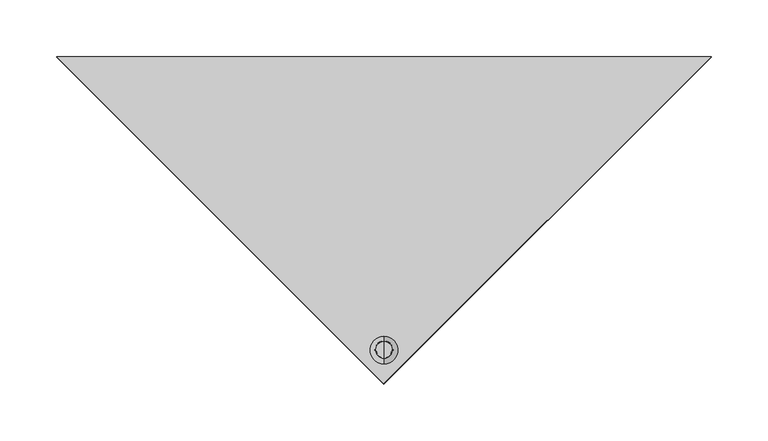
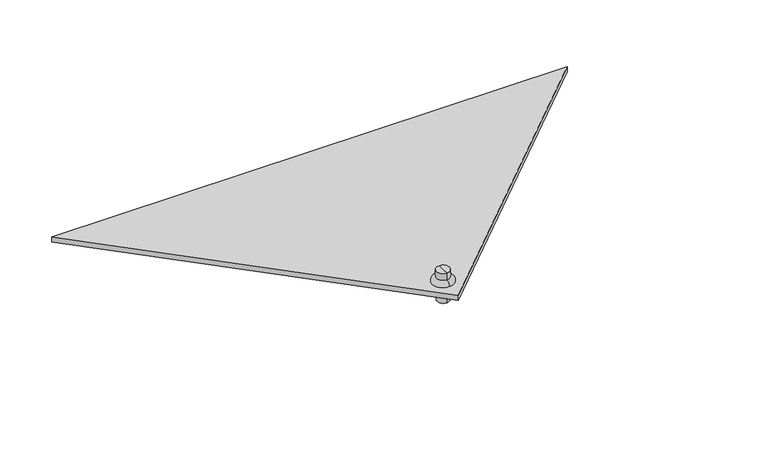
"""IFC4 building model written with IfcOpenShell, lengths in millimetres: proxy geometry, Roofing_Panels_SunStyle_Tuile-Haute-Petite : Tuile Haute Petite - Noir."""

from ifc_helpers import new_model, si_unit, point, frame, frame_2d, origin, place, context, project, spatial, polyline, circle_curve, ellipse_curve, trimmed, segment, composite_curve, outline, extrude, source, transform, mapped, element, save
from ifc_brep_helpers import plane_surface, cylinder_surface, revolved_surface, advanced_brep


def generic_models_f7f51557(model_context):
    return source(origin(), model_context, "Body", "SolidModel", [
        advanced_brep(
        [(0.0, -592.202006, 26.2215343), (0.0, -578.8689254, 25.9982384), (0.0, -579.2372345, 4.0063691), (0.0, -592.5703151, 4.229665), (0.0, -597.7012348, 26.3136327), (0.0, -573.3696966, 25.90614), (0.0, -592.7522385, 31.2274395), (0.0, -578.1513756, 30.9829114), (0.0, -585.3177786, 39.1080636), (0.0, -578.0173471, 38.9857996), (0.0, -592.6182101, 39.2303277), (0.0, -585.9037748, 4.118017)],
        [
            (0, 1, circle_curve(frame((0.0, -585.5354657, 26.1098864), z_axis=(0.0, -0.016745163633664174, -0.9998597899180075), x_axis=(0.0, 0.9998597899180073, -0.01674516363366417)), 6.6674751)),
            (1, 2),
            (2, 3, circle_curve(frame((0.0, -585.9037748, 4.118017), z_axis=(0.0, 0.016745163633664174, 0.9998597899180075), x_axis=(0.0, 0.9998597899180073, -0.01674516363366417)), 6.6674751)),
            (3, 0),
            (1, 0, circle_curve(frame((0.0, -585.5354657, 26.1098864), z_axis=(0.0, -0.016745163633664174, -0.9998597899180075), x_axis=(0.0, 0.9998597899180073, -0.01674516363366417)), 6.6674751)),
            (3, 2, circle_curve(frame((0.0, -585.9037748, 4.118017), z_axis=(0.0, 0.016745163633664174, 0.9998597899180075), x_axis=(0.0, 0.9998597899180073, -0.01674516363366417)), 6.6674751)),
            (4, 5, circle_curve(frame((0.0, -585.5354657, 26.1098864), z_axis=(0.0, -0.016745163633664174, -0.9998597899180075), x_axis=(0.0, 0.9998597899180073, -0.01674516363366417)), 12.1674751)),
            (5, 1),
            (0, 4),
            (5, 4, circle_curve(frame((0.0, -585.5354657, 26.1098864), z_axis=(0.0, -0.016745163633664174, -0.9998597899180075), x_axis=(0.0, 0.9998597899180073, -0.01674516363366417)), 12.1674751)),
            (6, 7, circle_curve(frame((0.0, -585.451807, 31.1051755), z_axis=(0.0, -0.016745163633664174, -0.9998597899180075), x_axis=(0.0, 0.9998597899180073, -0.01674516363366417)), 7.3014552)),
            (7, 5, circle_curve(frame((0.0, -578.4555735, 25.90614), z_axis=(-1.0, 0.0, 0.0), x_axis=(0.0, -1.0, 0.0)), 5.0858769)),
            (4, 6, circle_curve(frame((0.0, -592.6182101, 26.1433289), z_axis=(-1.0, 0.0, 0.0), x_axis=(0.0, 0.9994391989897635, -0.03348563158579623)), 5.0858769)),
            (7, 6, circle_curve(frame((0.0, -585.451807, 31.1051755), z_axis=(0.0, -0.016745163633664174, -0.9998597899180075), x_axis=(0.0, 0.9998597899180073, -0.01674516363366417)), 7.3014552)),
            (8, 9),
            (9, 10, circle_curve(frame((0.0, -585.3177786, 39.1080636), z_axis=(0.0, 0.016745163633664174, 0.9998597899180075), x_axis=(0.0, 0.9998597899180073, -0.01674516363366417)), 7.3014552)),
            (10, 8),
            (10, 9, circle_curve(frame((0.0, -585.3177786, 39.1080636), z_axis=(0.0, 0.016745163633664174, 0.9998597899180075), x_axis=(0.0, 0.9998597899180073, -0.01674516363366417)), 7.3014552)),
            (2, 11),
            (11, 3),
            (9, 7),
            (6, 10),
        ],
        [
            cylinder_surface(frame((0.0, -585.3177786, 39.1080636), z_axis=(0.0, 0.01674516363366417, 0.9998597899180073), x_axis=(0.0, 0.9998597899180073, -0.01674516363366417)), 6.6674751),
            plane_surface(frame((0.0, -585.5354657, 26.1098864), z_axis=(0.0, -0.016745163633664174, -0.9998597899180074), x_axis=(0.0, 0.9998597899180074, -0.016745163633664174))),
            revolved_surface(trimmed(ellipse_curve(frame((0.0, -578.4555735, 25.90614), z_axis=(1.0, 0.0, 0.0), x_axis=(0.0, -1.0, 0.0)), 5.0858769, 5.0858769), [point((0.0, -573.3696966, 25.90614))], [point((0.0, -578.1513756, 30.9829114))], True, "CARTESIAN"), (0.0, -585.3177786, 39.1080636), (0.0, 0.01674516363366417, 0.9998597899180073)),
            plane_surface(frame((0.0, -585.3177786, 39.1080636), z_axis=(0.0, 0.016745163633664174, 0.9998597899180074), x_axis=(0.0, 0.9998597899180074, -0.016745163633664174))),
            plane_surface(frame((0.0, -585.9037748, 4.118017), z_axis=(0.0, -0.016745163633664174, -0.9998597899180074), x_axis=(0.0, 0.9998597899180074, -0.016745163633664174))),
            cylinder_surface(frame((0.0, -585.3177786, 39.1080636), z_axis=(0.0, 0.01674516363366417, 0.9998597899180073), x_axis=(0.0, 0.9998597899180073, -0.01674516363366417)), 7.3014552),
        ],
        [
            (0, [[1, 2, 3, 4]]),
            (0, [[5, -4, 6, -2]]),
            (1, [[7, 8, -1, 9]]),
            (1, [[10, -9, -5, -8]]),
            (2, [[11, 12, -7, 13]]),
            (2, [[14, -13, -10, -12]]),
            (3, [[15, 16, 17]]),
            (3, [[-17, 18, -15]]),
            (4, [[-3, 19, 20]]),
            (4, [[-6, -20, -19]]),
            (5, [[-16, 21, -11, 22]]),
            (5, [[-18, -22, -14, -21]]),
        ],
    ),
        extrude(outline(polyline([(287.4745156, 0.0), (0.0, -287.4342088), (-287.4745155, 0.0), (287.4745156, 0.0)]), holes=[composite_curve([segment(trimmed(circle_curve(frame_2d((-0.0003225, -257.7552628)), 8.0), [point((-8.0003225, -257.7552628))], [point((7.9996775, -257.7552628))], True, "CARTESIAN"), True, "CONTINUOUS"), segment(trimmed(circle_curve(frame_2d((-0.0003225, -257.7552628)), 8.0), [point((7.9996775, -257.7552628))], [point((-8.0003225, -257.7552628))], True, "CARTESIAN"), True, "CONTINUOUS")], self_intersect=False)]), frame((0.0003225, -327.9167293, 15.7945722), z_axis=(0.0, 0.01674516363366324, 0.9998597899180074), x_axis=(1.0, 0.0, 0.0)), (0.0, 0.0, 1.0), 6.0),
    ])


if __name__ == "__main__":
    model = new_model("IFC4")
    model_context = context("Model", 3, world=origin())
    ifc_project = project(units=[si_unit("LENGTHUNIT", "METRE", prefix="MILLI")], contexts=[model_context])
    site = spatial("IfcSite", under=ifc_project)
    building = spatial("IfcBuilding", under=site)
    placement = place(None, origin())
    generic_models_shape = generic_models_f7f51557(model_context)
    element("IfcBuildingElementProxy", 1, Name="Roofing_Panels_SunStyle_Tuile-Haute-Petite : Tuile Haute Petite - Noir", ObjectType="Roofing_Panels_SunStyle_Tuile-Haute-Petite : Tuile Haute Petite - Noir", at=placement, inside=building, context=model_context, shape_type="MappedRepresentation", body=[
        mapped(generic_models_shape, transform((0.0, 0.0, 0.0), x_axis=(1.0, 0.0, 0.0), y_axis=(0.0, 1.0, 0.0), z_axis=(0.0, 0.0, 1.0))),
    ])
    save(model, "model.ifc")
